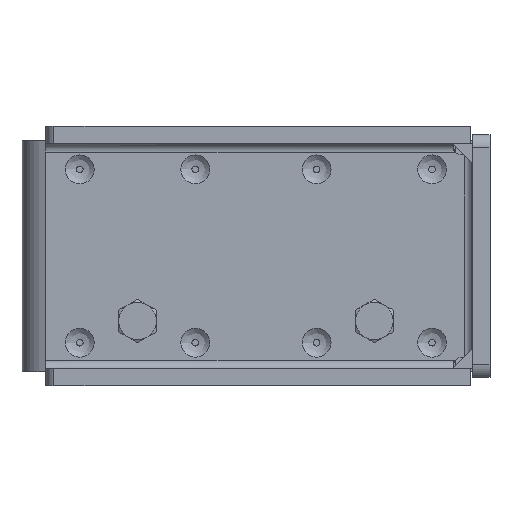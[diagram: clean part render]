
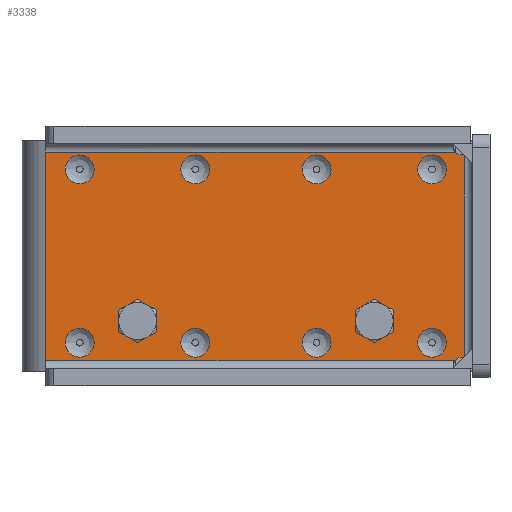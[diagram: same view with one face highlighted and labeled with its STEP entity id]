
A CAD part, top view. The second image highlights one B-rep face of the part: STEP entity #3338.
In plain terms, the highlighted planar face has unit normal (0, 0, 1).
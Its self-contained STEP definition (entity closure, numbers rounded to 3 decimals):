
#90=FACE_BOUND('',#699,.T.);
#91=FACE_BOUND('',#700,.T.);
#92=FACE_BOUND('',#701,.T.);
#93=FACE_BOUND('',#702,.T.);
#94=FACE_BOUND('',#703,.T.);
#95=FACE_BOUND('',#704,.T.);
#96=FACE_BOUND('',#705,.T.);
#97=FACE_BOUND('',#706,.T.);
#98=FACE_BOUND('',#707,.T.);
#99=FACE_BOUND('',#708,.T.);
#214=CIRCLE('',#3602,3.);
#215=CIRCLE('',#3604,3.);
#216=CIRCLE('',#3605,5.);
#217=CIRCLE('',#3606,5.);
#218=CIRCLE('',#3607,5.);
#219=CIRCLE('',#3608,5.);
#220=CIRCLE('',#3609,5.);
#221=CIRCLE('',#3610,5.);
#222=CIRCLE('',#3611,5.);
#223=CIRCLE('',#3612,5.);
#224=CIRCLE('',#3613,5.);
#225=CIRCLE('',#3614,5.);
#226=CIRCLE('',#3615,5.);
#227=CIRCLE('',#3616,5.);
#228=CIRCLE('',#3617,5.);
#229=CIRCLE('',#3618,5.);
#230=CIRCLE('',#3619,5.);
#231=CIRCLE('',#3620,5.);
#232=CIRCLE('',#3621,6.);
#233=CIRCLE('',#3622,6.);
#474=FACE_OUTER_BOUND('',#698,.T.);
#698=EDGE_LOOP('',(#2484,#2485,#2486,#2487,#2488,#2489,#2490,#2491));
#699=EDGE_LOOP('',(#2492,#2493));
#700=EDGE_LOOP('',(#2494,#2495));
#701=EDGE_LOOP('',(#2496,#2497));
#702=EDGE_LOOP('',(#2498,#2499));
#703=EDGE_LOOP('',(#2500,#2501));
#704=EDGE_LOOP('',(#2502,#2503));
#705=EDGE_LOOP('',(#2504,#2505));
#706=EDGE_LOOP('',(#2506,#2507));
#707=EDGE_LOOP('',(#2508));
#708=EDGE_LOOP('',(#2509));
#989=LINE('',#5477,#1251);
#994=LINE('',#5486,#1256);
#1003=LINE('',#5868,#1265);
#1020=LINE('',#5915,#1282);
#1021=LINE('',#5917,#1283);
#1022=LINE('',#5919,#1284);
#1251=VECTOR('',#4112,141.764);
#1256=VECTOR('',#4121,72.);
#1265=VECTOR('',#4144,141.764);
#1282=VECTOR('',#4195,0.8);
#1283=VECTOR('',#4196,70.);
#1284=VECTOR('',#4197,0.8);
#1496=VERTEX_POINT('',#5283);
#1499=VERTEX_POINT('',#5450);
#1505=VERTEX_POINT('',#5484);
#1509=VERTEX_POINT('',#5654);
#1529=VERTEX_POINT('',#5910);
#1530=VERTEX_POINT('',#5914);
#1531=VERTEX_POINT('',#5916);
#1532=VERTEX_POINT('',#5918);
#1533=VERTEX_POINT('',#5921);
#1534=VERTEX_POINT('',#5922);
#1535=VERTEX_POINT('',#5925);
#1536=VERTEX_POINT('',#5926);
#1537=VERTEX_POINT('',#5929);
#1538=VERTEX_POINT('',#5930);
#1539=VERTEX_POINT('',#5933);
#1540=VERTEX_POINT('',#5934);
#1541=VERTEX_POINT('',#5937);
#1542=VERTEX_POINT('',#5938);
#1543=VERTEX_POINT('',#5941);
#1544=VERTEX_POINT('',#5942);
#1545=VERTEX_POINT('',#5945);
#1546=VERTEX_POINT('',#5946);
#1547=VERTEX_POINT('',#5949);
#1548=VERTEX_POINT('',#5950);
#1549=VERTEX_POINT('',#5953);
#1550=VERTEX_POINT('',#5955);
#1838=EDGE_CURVE('',#1499,#1496,#989,.T.);
#1843=EDGE_CURVE('',#1505,#1496,#994,.T.);
#1860=EDGE_CURVE('',#1505,#1509,#1003,.T.);
#1882=EDGE_CURVE('',#1529,#1509,#214,.T.);
#1883=EDGE_CURVE('',#1530,#1529,#1020,.T.);
#1884=EDGE_CURVE('',#1530,#1531,#1021,.T.);
#1885=EDGE_CURVE('',#1532,#1531,#1022,.T.);
#1886=EDGE_CURVE('',#1499,#1532,#215,.T.);
#1887=EDGE_CURVE('',#1533,#1534,#216,.T.);
#1888=EDGE_CURVE('',#1534,#1533,#217,.T.);
#1889=EDGE_CURVE('',#1535,#1536,#218,.T.);
#1890=EDGE_CURVE('',#1536,#1535,#219,.T.);
#1891=EDGE_CURVE('',#1537,#1538,#220,.T.);
#1892=EDGE_CURVE('',#1538,#1537,#221,.T.);
#1893=EDGE_CURVE('',#1539,#1540,#222,.T.);
#1894=EDGE_CURVE('',#1540,#1539,#223,.T.);
#1895=EDGE_CURVE('',#1541,#1542,#224,.T.);
#1896=EDGE_CURVE('',#1542,#1541,#225,.T.);
#1897=EDGE_CURVE('',#1543,#1544,#226,.T.);
#1898=EDGE_CURVE('',#1544,#1543,#227,.T.);
#1899=EDGE_CURVE('',#1545,#1546,#228,.T.);
#1900=EDGE_CURVE('',#1546,#1545,#229,.T.);
#1901=EDGE_CURVE('',#1547,#1548,#230,.T.);
#1902=EDGE_CURVE('',#1548,#1547,#231,.T.);
#1903=EDGE_CURVE('',#1549,#1549,#232,.T.);
#1904=EDGE_CURVE('',#1550,#1550,#233,.T.);
#2484=ORIENTED_EDGE('',*,*,#1838,.T.);
#2485=ORIENTED_EDGE('',*,*,#1843,.F.);
#2486=ORIENTED_EDGE('',*,*,#1860,.T.);
#2487=ORIENTED_EDGE('',*,*,#1882,.F.);
#2488=ORIENTED_EDGE('',*,*,#1883,.F.);
#2489=ORIENTED_EDGE('',*,*,#1884,.T.);
#2490=ORIENTED_EDGE('',*,*,#1885,.F.);
#2491=ORIENTED_EDGE('',*,*,#1886,.F.);
#2492=ORIENTED_EDGE('',*,*,#1887,.T.);
#2493=ORIENTED_EDGE('',*,*,#1888,.T.);
#2494=ORIENTED_EDGE('',*,*,#1889,.T.);
#2495=ORIENTED_EDGE('',*,*,#1890,.T.);
#2496=ORIENTED_EDGE('',*,*,#1891,.T.);
#2497=ORIENTED_EDGE('',*,*,#1892,.T.);
#2498=ORIENTED_EDGE('',*,*,#1893,.T.);
#2499=ORIENTED_EDGE('',*,*,#1894,.T.);
#2500=ORIENTED_EDGE('',*,*,#1895,.T.);
#2501=ORIENTED_EDGE('',*,*,#1896,.T.);
#2502=ORIENTED_EDGE('',*,*,#1897,.T.);
#2503=ORIENTED_EDGE('',*,*,#1898,.T.);
#2504=ORIENTED_EDGE('',*,*,#1899,.T.);
#2505=ORIENTED_EDGE('',*,*,#1900,.T.);
#2506=ORIENTED_EDGE('',*,*,#1901,.T.);
#2507=ORIENTED_EDGE('',*,*,#1902,.T.);
#2508=ORIENTED_EDGE('',*,*,#1903,.T.);
#2509=ORIENTED_EDGE('',*,*,#1904,.T.);
#3179=PLANE('',#3603);
#3338=ADVANCED_FACE('',(#474,#90,#91,#92,#93,#94,#95,#96,#97,#98,#99),#3179,
 .T.);
#3602=AXIS2_PLACEMENT_3D('',#5912,#4191,#4192);
#3603=AXIS2_PLACEMENT_3D('',#5913,#4193,#4194);
#3604=AXIS2_PLACEMENT_3D('',#5920,#4198,#4199);
#3605=AXIS2_PLACEMENT_3D('',#5923,#4200,#4201);
#3606=AXIS2_PLACEMENT_3D('',#5924,#4202,#4203);
#3607=AXIS2_PLACEMENT_3D('',#5927,#4204,#4205);
#3608=AXIS2_PLACEMENT_3D('',#5928,#4206,#4207);
#3609=AXIS2_PLACEMENT_3D('',#5931,#4208,#4209);
#3610=AXIS2_PLACEMENT_3D('',#5932,#4210,#4211);
#3611=AXIS2_PLACEMENT_3D('',#5935,#4212,#4213);
#3612=AXIS2_PLACEMENT_3D('',#5936,#4214,#4215);
#3613=AXIS2_PLACEMENT_3D('',#5939,#4216,#4217);
#3614=AXIS2_PLACEMENT_3D('',#5940,#4218,#4219);
#3615=AXIS2_PLACEMENT_3D('',#5943,#4220,#4221);
#3616=AXIS2_PLACEMENT_3D('',#5944,#4222,#4223);
#3617=AXIS2_PLACEMENT_3D('',#5947,#4224,#4225);
#3618=AXIS2_PLACEMENT_3D('',#5948,#4226,#4227);
#3619=AXIS2_PLACEMENT_3D('',#5951,#4228,#4229);
#3620=AXIS2_PLACEMENT_3D('',#5952,#4230,#4231);
#3621=AXIS2_PLACEMENT_3D('',#5954,#4232,#4233);
#3622=AXIS2_PLACEMENT_3D('',#5956,#4234,#4235);
#4112=DIRECTION('',(-1.,0.,0.));
#4121=DIRECTION('',(0.,1.,0.));
#4144=DIRECTION('',(1.,0.,0.));
#4191=DIRECTION('center_axis',(0.,0.,1.));
#4192=DIRECTION('ref_axis',(0.,-1.,0.));
#4193=DIRECTION('center_axis',(0.,0.,1.));
#4194=DIRECTION('ref_axis',(1.,0.,0.));
#4195=DIRECTION('',(-1.,0.,0.));
#4196=DIRECTION('',(0.,1.,0.));
#4197=DIRECTION('',(1.,0.,0.));
#4198=DIRECTION('center_axis',(0.,0.,1.));
#4199=DIRECTION('ref_axis',(1.,0.,0.));
#4200=DIRECTION('center_axis',(0.,0.,-1.));
#4201=DIRECTION('ref_axis',(-1.,0.,0.));
#4202=DIRECTION('center_axis',(0.,0.,-1.));
#4203=DIRECTION('ref_axis',(-1.,0.,0.));
#4204=DIRECTION('center_axis',(0.,0.,-1.));
#4205=DIRECTION('ref_axis',(-1.,0.,0.));
#4206=DIRECTION('center_axis',(0.,0.,-1.));
#4207=DIRECTION('ref_axis',(-1.,0.,0.));
#4208=DIRECTION('center_axis',(0.,0.,-1.));
#4209=DIRECTION('ref_axis',(-1.,0.,0.));
#4210=DIRECTION('center_axis',(0.,0.,-1.));
#4211=DIRECTION('ref_axis',(-1.,0.,0.));
#4212=DIRECTION('center_axis',(0.,0.,-1.));
#4213=DIRECTION('ref_axis',(-1.,0.,0.));
#4214=DIRECTION('center_axis',(0.,0.,-1.));
#4215=DIRECTION('ref_axis',(-1.,0.,0.));
#4216=DIRECTION('center_axis',(0.,0.,-1.));
#4217=DIRECTION('ref_axis',(-1.,0.,0.));
#4218=DIRECTION('center_axis',(0.,0.,-1.));
#4219=DIRECTION('ref_axis',(-1.,0.,0.));
#4220=DIRECTION('center_axis',(0.,0.,-1.));
#4221=DIRECTION('ref_axis',(-1.,0.,0.));
#4222=DIRECTION('center_axis',(0.,0.,-1.));
#4223=DIRECTION('ref_axis',(-1.,0.,0.));
#4224=DIRECTION('center_axis',(0.,0.,-1.));
#4225=DIRECTION('ref_axis',(-1.,0.,0.));
#4226=DIRECTION('center_axis',(0.,0.,-1.));
#4227=DIRECTION('ref_axis',(-1.,0.,0.));
#4228=DIRECTION('center_axis',(0.,0.,-1.));
#4229=DIRECTION('ref_axis',(-1.,0.,0.));
#4230=DIRECTION('center_axis',(0.,0.,-1.));
#4231=DIRECTION('ref_axis',(-1.,0.,0.));
#4232=DIRECTION('center_axis',(0.,0.,-1.));
#4233=DIRECTION('ref_axis',(-1.,0.,0.));
#4234=DIRECTION('center_axis',(0.,0.,-1.));
#4235=DIRECTION('ref_axis',(-1.,0.,0.));
#5283=CARTESIAN_POINT('',(0.,36.,6.));
#5450=CARTESIAN_POINT('',(141.764,36.,6.));
#5477=CARTESIAN_POINT('',(155.237,36.,6.));
#5484=CARTESIAN_POINT('',(0.,-36.,6.));
#5486=CARTESIAN_POINT('',(0.,53.,6.));
#5654=CARTESIAN_POINT('',(141.764,-36.,6.));
#5868=CARTESIAN_POINT('',(84.355,-36.,6.));
#5910=CARTESIAN_POINT('',(144.,-35.,6.));
#5912=CARTESIAN_POINT('Origin',(144.,-38.,6.));
#5913=CARTESIAN_POINT('Origin',(168.71,0.,6.));
#5914=CARTESIAN_POINT('',(144.8,-35.,6.));
#5915=CARTESIAN_POINT('',(144.,-35.,6.));
#5916=CARTESIAN_POINT('',(144.8,35.,6.));
#5917=CARTESIAN_POINT('',(144.8,-17.5,6.));
#5918=CARTESIAN_POINT('',(144.,35.,6.));
#5919=CARTESIAN_POINT('',(151.,35.,6.));
#5920=CARTESIAN_POINT('Origin',(144.,38.,6.));
#5921=CARTESIAN_POINT('',(98.75,30.,6.));
#5922=CARTESIAN_POINT('',(88.75,30.,6.));
#5923=CARTESIAN_POINT('Origin',(93.75,30.,6.));
#5924=CARTESIAN_POINT('Origin',(93.75,30.,6.));
#5925=CARTESIAN_POINT('',(138.75,-30.,6.));
#5926=CARTESIAN_POINT('',(128.75,-30.,6.));
#5927=CARTESIAN_POINT('Origin',(133.75,-30.,6.));
#5928=CARTESIAN_POINT('Origin',(133.75,-30.,6.));
#5929=CARTESIAN_POINT('',(56.75,30.,6.));
#5930=CARTESIAN_POINT('',(46.75,30.,6.));
#5931=CARTESIAN_POINT('Origin',(51.75,30.,6.));
#5932=CARTESIAN_POINT('Origin',(51.75,30.,6.));
#5933=CARTESIAN_POINT('',(98.75,-30.,6.));
#5934=CARTESIAN_POINT('',(88.75,-30.,6.));
#5935=CARTESIAN_POINT('Origin',(93.75,-30.,6.));
#5936=CARTESIAN_POINT('Origin',(93.75,-30.,6.));
#5937=CARTESIAN_POINT('',(56.75,-30.,6.));
#5938=CARTESIAN_POINT('',(46.75,-30.,6.));
#5939=CARTESIAN_POINT('Origin',(51.75,-30.,6.));
#5940=CARTESIAN_POINT('Origin',(51.75,-30.,6.));
#5941=CARTESIAN_POINT('',(16.75,30.,6.));
#5942=CARTESIAN_POINT('',(6.75,30.,6.));
#5943=CARTESIAN_POINT('Origin',(11.75,30.,6.));
#5944=CARTESIAN_POINT('Origin',(11.75,30.,6.));
#5945=CARTESIAN_POINT('',(16.75,-30.,6.));
#5946=CARTESIAN_POINT('',(6.75,-30.,6.));
#5947=CARTESIAN_POINT('Origin',(11.75,-30.,6.));
#5948=CARTESIAN_POINT('Origin',(11.75,-30.,6.));
#5949=CARTESIAN_POINT('',(138.75,30.,6.));
#5950=CARTESIAN_POINT('',(128.75,30.,6.));
#5951=CARTESIAN_POINT('Origin',(133.75,30.,6.));
#5952=CARTESIAN_POINT('Origin',(133.75,30.,6.));
#5953=CARTESIAN_POINT('',(37.75,-22.5,6.));
#5954=CARTESIAN_POINT('Origin',(31.75,-22.5,6.));
#5955=CARTESIAN_POINT('',(119.75,-22.5,6.));
#5956=CARTESIAN_POINT('Origin',(113.75,-22.5,6.));
